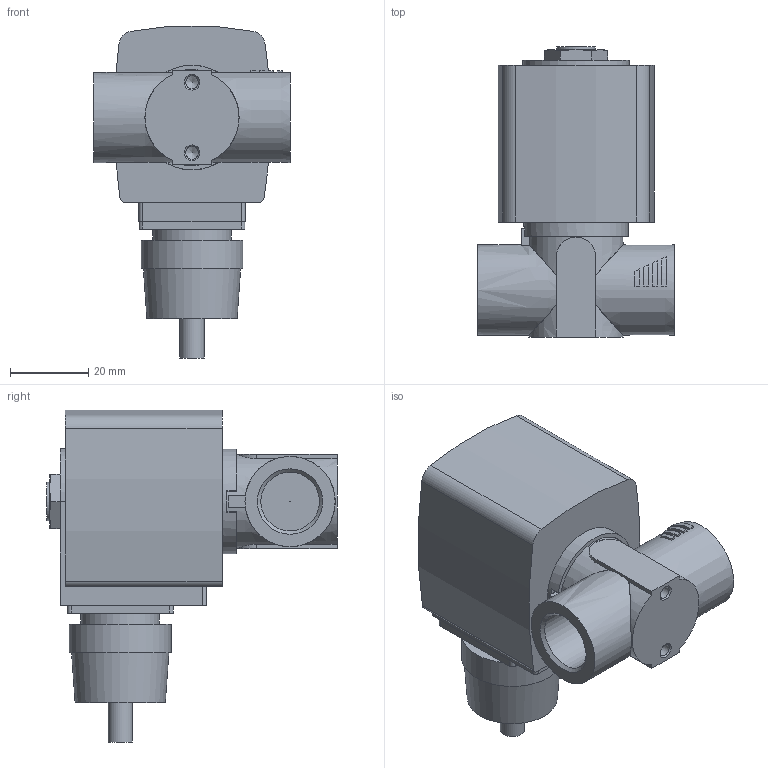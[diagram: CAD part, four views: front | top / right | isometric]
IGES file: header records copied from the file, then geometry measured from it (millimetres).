
Start section: Data from Parasolid IGES Translator 26.0.171, Copyright(c) 2006 Siemens PLM Software. All Rights Reserved.
Global section: file name: 6240-364117-2_2-way_solenoid_valve__pilot-controlled.igs; native system: By Siemens PLM Incorporated; preprocessor: XPlus GENERIC/IGES 26.0.171; author: Noname; organization: Noname; date: 20240510.103315; units: millimetre
Bounding box: 50 x 74 x 84.63 mm (x, y, z)
Surface area: 20584.2 mm2 (no closed solid volume)
Topology: 0 solids, 0 shells, 117 faces, 584 edges, 570 vertices
Faces by surface type: extrusion 64, revolution 53
